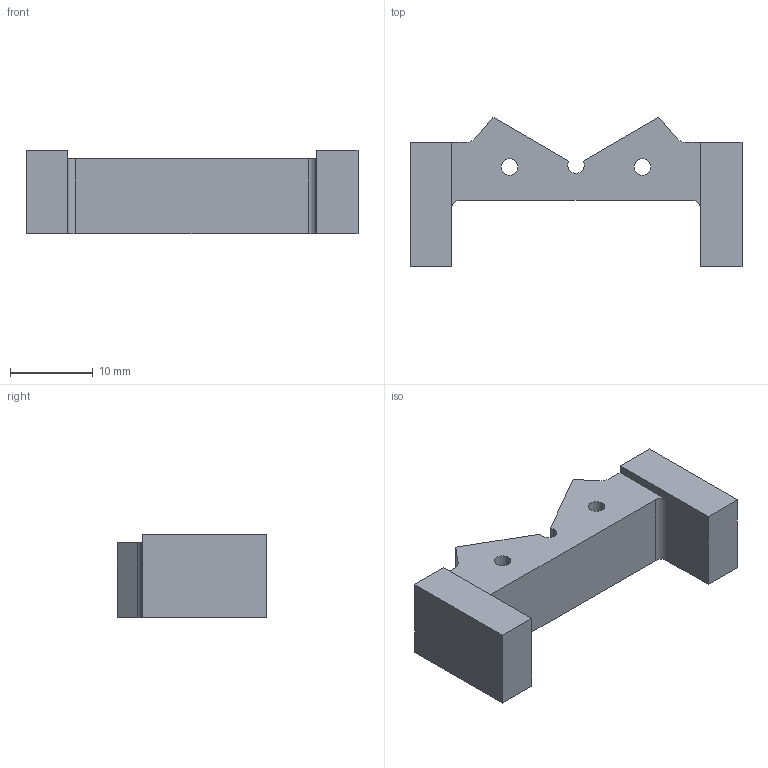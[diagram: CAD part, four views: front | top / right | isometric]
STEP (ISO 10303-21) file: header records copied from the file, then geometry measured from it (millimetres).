
FILE_DESCRIPTION (( 'STEP AP214' ), '1' );
FILE_NAME ('2026_4_3_Vノッチ付きブラケット.STEP', '2026-04-17T08:47:24', ( '' ), ( '' ), 'SwSTEP 2.0', 'SolidWorks 2025', '' );
FILE_SCHEMA (( 'AUTOMOTIVE_DESIGN' ));
Length unit declared in the file: millimetre
Products named in the file (1): 2026_4_3_Vノッチ付きブラケット
Bounding box: 40 x 18 x 10 mm (x, y, z)
Volume: 3407.6 mm3; surface area: 2114.5 mm2
Topology: 1 solids, 1 shells, 28 faces, 78 edges, 52 vertices
Faces by surface type: plane 17, cylinder 11
Entity records: 979 total; most frequent: CARTESIAN_POINT 159, DIRECTION 158, ORIENTED_EDGE 156, EDGE_CURVE 78, VECTOR 56, LINE 56, VERTEX_POINT 52, AXIS2_PLACEMENT_3D 51
